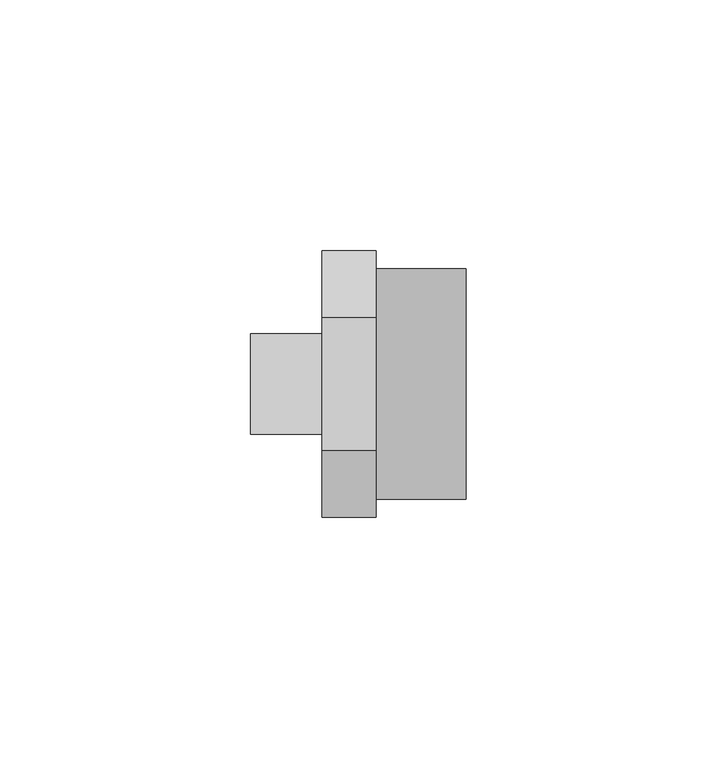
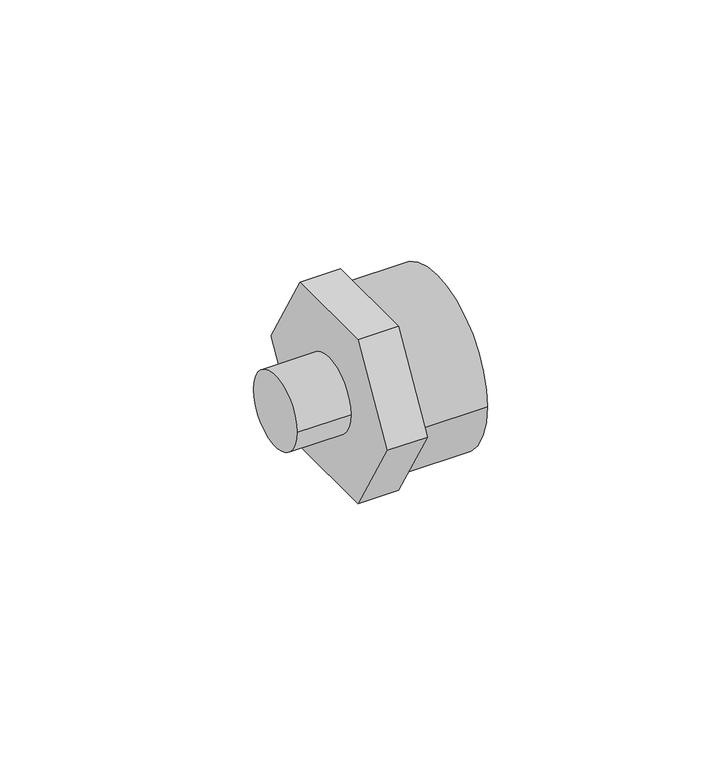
"""IFC4 building model written with IfcOpenShell, lengths in millimetres: pipe fitting geometry, 01011006 : Uniões de redução M/F."""

from ifc_helpers import new_model, si_unit, point, frame, origin, origin_2d, place, context, project, spatial, polyline, circle_curve, trimmed, segment, composite_curve, outline, extrude, source, transform, mapped, element, save


def pipe_fitting_452bb9af(model_context):
    return source(origin(), model_context, "Body", "SweptSolid", [
        extrude(outline(composite_curve([segment(trimmed(circle_curve(origin_2d(), 10.0), [point((10.0, 0.0))], [point((-10.0, 0.0))], False, "CARTESIAN"), True, "CONTINUOUS"), segment(trimmed(circle_curve(origin_2d(), 10.0), [point((-10.0, 0.0))], [point((10.0, 0.0))], False, "CARTESIAN"), True, "CONTINUOUS")], self_intersect=False)), frame((0.0, 0.0, 0.0), z_axis=(1.0, 0.0, 0.0), x_axis=(0.0, 1.0, 0.0)), (0.0, 0.0, 1.0), 14.25),
        extrude(outline(polyline([(-13.2790562, 23.0), (13.2790562, 23.0), (26.5581124, 0.0), (13.2790562, -23.0), (-13.2790562, -23.0), (-26.5581124, 0.0), (-13.2790562, 23.0)])), frame((14.25, 0.0, 0.0), z_axis=(1.0, 0.0, 0.0), x_axis=(0.0, 1.0, 0.0)), (0.0, 0.0, 1.0), 10.75),
        extrude(outline(composite_curve([segment(trimmed(circle_curve(origin_2d(), 23.0), [point((-23.0, 0.0))], [point((23.0, 0.0))], False, "CARTESIAN"), True, "CONTINUOUS"), segment(trimmed(circle_curve(origin_2d(), 23.0), [point((23.0, 0.0))], [point((-23.0, 0.0))], False, "CARTESIAN"), True, "CONTINUOUS")], self_intersect=False)), frame((25.0, 0.0, 0.0), z_axis=(1.0, 0.0, 0.0), x_axis=(0.0, 1.0, 0.0)), (0.0, 0.0, 1.0), 18.0),
    ])


if __name__ == "__main__":
    model = new_model("IFC4")
    model_context = context("Model", 3, world=origin())
    ifc_project = project(units=[si_unit("LENGTHUNIT", "METRE", prefix="MILLI")], contexts=[model_context])
    site = spatial("IfcSite", under=ifc_project)
    building = spatial("IfcBuilding", under=site)
    placement = place(None, origin())
    pipe_fitting_shape = pipe_fitting_452bb9af(model_context)
    element("IfcPipeFitting", 1, ObjectType="01011006 : Uniões de redução M/F", at=placement, inside=building, context=model_context, shape_type="MappedRepresentation", body=[
        mapped(pipe_fitting_shape, transform((0.0, 0.0, 0.0), x_axis=(1.0, 0.0, 0.0), y_axis=(0.0, 1.0, 0.0), z_axis=(0.0, 0.0, 1.0))),
    ])
    save(model, "model.ifc")
